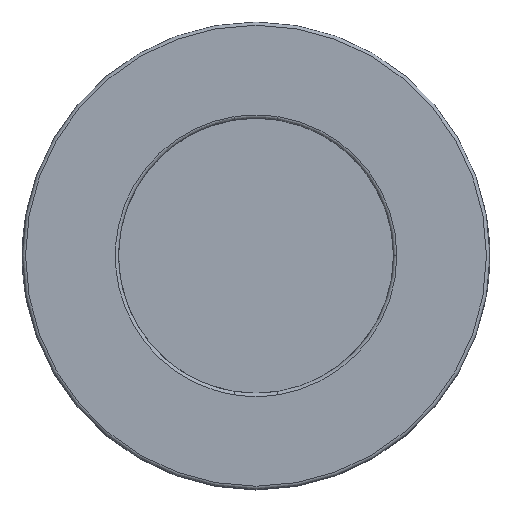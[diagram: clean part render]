
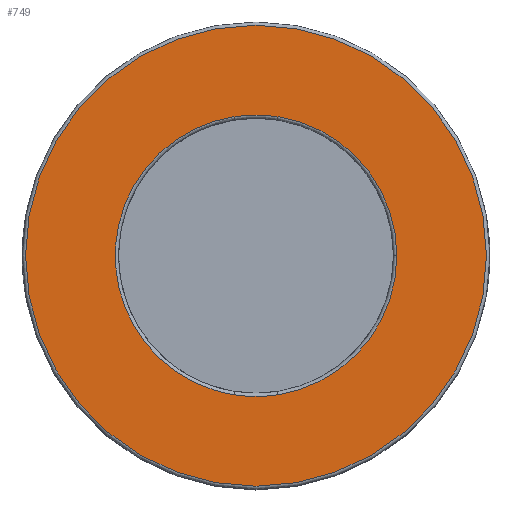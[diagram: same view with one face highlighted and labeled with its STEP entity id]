
A CAD part, top view. The second image highlights one B-rep face of the part: STEP entity #749.
In plain terms, the highlighted planar face has unit normal (0, 0, 1).
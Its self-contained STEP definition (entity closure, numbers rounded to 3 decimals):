
#683 = VERTEX_POINT('',#684);
#684 = CARTESIAN_POINT('',(41.9,0.,55.));
#693 = EDGE_CURVE('',#683,#683,#694,.T.);
#694 = CIRCLE('',#695,41.9);
#695 = AXIS2_PLACEMENT_3D('',#696,#697,#698);
#696 = CARTESIAN_POINT('',(0.,0.,55.));
#697 = DIRECTION('',(0.,0.,1.));
#698 = DIRECTION('',(1.,0.,0.));
#749 = ADVANCED_FACE('',(#750,#753),#806,.T.);
#750 = FACE_BOUND('',#751,.T.);
#751 = EDGE_LOOP('',(#752));
#752 = ORIENTED_EDGE('',*,*,#693,.T.);
#753 = FACE_BOUND('',#754,.T.);
#754 = EDGE_LOOP('',(#755,#766,#775,#790,#799));
#755 = ORIENTED_EDGE('',*,*,#756,.F.);
#756 = EDGE_CURVE('',#757,#759,#761,.T.);
#757 = VERTEX_POINT('',#758);
#758 = CARTESIAN_POINT('',(4.002,-25.285,55.));
#759 = VERTEX_POINT('',#760);
#760 = CARTESIAN_POINT('',(25.6,0.,55.));
#761 = CIRCLE('',#762,25.6);
#762 = AXIS2_PLACEMENT_3D('',#763,#764,#765);
#763 = CARTESIAN_POINT('',(0.,0.,55.));
#764 = DIRECTION('',(-0.,0.,1.));
#765 = DIRECTION('',(0.156,-0.988,0.));
#766 = ORIENTED_EDGE('',*,*,#767,.F.);
#767 = EDGE_CURVE('',#768,#757,#770,.T.);
#768 = VERTEX_POINT('',#769);
#769 = CARTESIAN_POINT('',(-4.002,-25.285,55.));
#770 = CIRCLE('',#771,25.6);
#771 = AXIS2_PLACEMENT_3D('',#772,#773,#774);
#772 = CARTESIAN_POINT('',(0.,0.,55.));
#773 = DIRECTION('',(0.,0.,1.));
#774 = DIRECTION('',(-0.156,-0.988,0.));
#775 = ORIENTED_EDGE('',*,*,#776,.F.);
#776 = EDGE_CURVE('',#777,#768,#779,.T.);
#777 = VERTEX_POINT('',#778);
#778 = CARTESIAN_POINT('',(-4.002,25.285,55.));
#779 = ( BOUNDED_CURVE() B_SPLINE_CURVE(9,(#780,#781,#782,#783,#784,#785
    ,#786,#787,#788,#789),.UNSPECIFIED.,.F.,.F.) 
B_SPLINE_CURVE_WITH_KNOTS((10,10),(78.54,149.231),
.PIECEWISE_BEZIER_KNOTS.) CURVE() GEOMETRIC_REPRESENTATION_ITEM() 
RATIONAL_B_SPLINE_CURVE((1.,1.,1.,1.,1.,1.,1.,1.,1.,1.)) 
REPRESENTATION_ITEM('') );
#780 = CARTESIAN_POINT('',(-4.002,25.285,55.));
#781 = CARTESIAN_POINT('',(-11.945,24.028,55.));
#782 = CARTESIAN_POINT('',(-19.447,19.963,55.));
#783 = CARTESIAN_POINT('',(-25.366,13.267,55.));
#784 = CARTESIAN_POINT('',(-28.66,4.663,55.));
#785 = CARTESIAN_POINT('',(-28.66,-4.663,55.));
#786 = CARTESIAN_POINT('',(-25.366,-13.267,55.));
#787 = CARTESIAN_POINT('',(-19.447,-19.963,55.));
#788 = CARTESIAN_POINT('',(-11.945,-24.028,55.));
#789 = CARTESIAN_POINT('',(-4.002,-25.285,55.));
#790 = ORIENTED_EDGE('',*,*,#791,.F.);
#791 = EDGE_CURVE('',#792,#777,#794,.T.);
#792 = VERTEX_POINT('',#793);
#793 = CARTESIAN_POINT('',(4.002,25.285,55.));
#794 = CIRCLE('',#795,25.6);
#795 = AXIS2_PLACEMENT_3D('',#796,#797,#798);
#796 = CARTESIAN_POINT('',(0.,0.,55.));
#797 = DIRECTION('',(0.,-0.,1.));
#798 = DIRECTION('',(0.156,0.988,0.));
#799 = ORIENTED_EDGE('',*,*,#800,.F.);
#800 = EDGE_CURVE('',#759,#792,#801,.T.);
#801 = CIRCLE('',#802,25.6);
#802 = AXIS2_PLACEMENT_3D('',#803,#804,#805);
#803 = CARTESIAN_POINT('',(0.,0.,55.));
#804 = DIRECTION('',(0.,0.,1.));
#805 = DIRECTION('',(1.,0.,0.));
#806 = PLANE('',#807);
#807 = AXIS2_PLACEMENT_3D('',#808,#809,#810);
#808 = CARTESIAN_POINT('',(0.,0.,55.));
#809 = DIRECTION('',(0.,0.,1.));
#810 = DIRECTION('',(1.,0.,0.));
